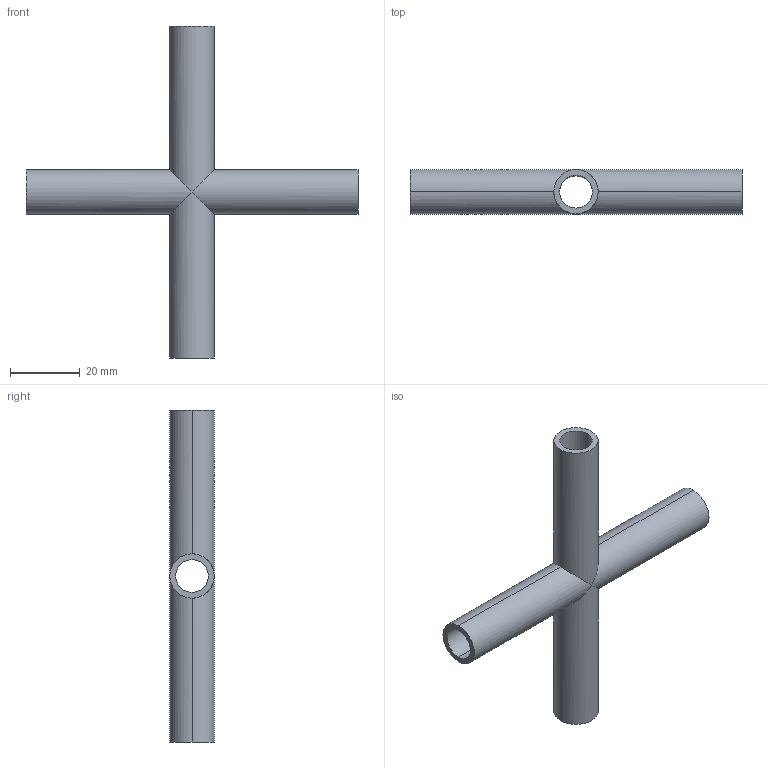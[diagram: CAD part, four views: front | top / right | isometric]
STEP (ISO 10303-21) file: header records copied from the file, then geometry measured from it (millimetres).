
FILE_DESCRIPTION (( 'STEP AP214' ), '1' );
FILE_NAME ('TE9WWWW6L.5-...STEP', '2016-05-22T04:53:19', ( 'eran' ), ( '' ), 'SwSTEP 2.0', 'SolidWorks 2016', '' );
FILE_SCHEMA (( 'AUTOMOTIVE_DESIGN' ));
Length unit declared in the file: millimetre
Products named in the file (1): TE9WWWW6L.5-..
Bounding box: 95.25 x 12.7 x 95.25 mm (x, y, z)
Volume: 10105.1 mm3; surface area: 12455.9 mm2
Topology: 1 solids, 1 shells, 20 faces, 48 edges, 28 vertices
Faces by surface type: cylinder 16, plane 4
Entity records: 618 total; most frequent: CARTESIAN_POINT 145, ORIENTED_EDGE 96, DIRECTION 90, EDGE_CURVE 48, AXIS2_PLACEMENT_3D 37, VERTEX_POINT 28, EDGE_LOOP 24, FACE_OUTER_BOUND 20
